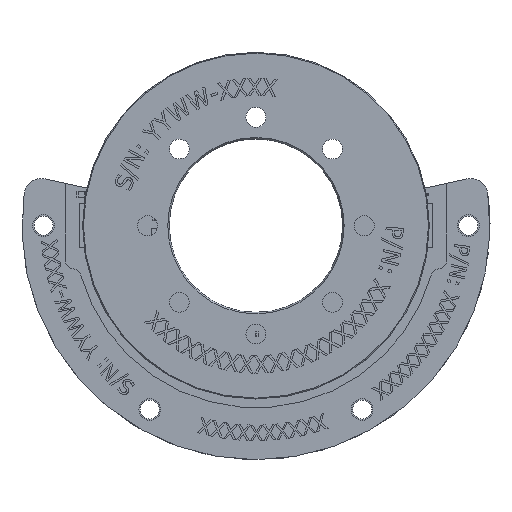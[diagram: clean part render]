
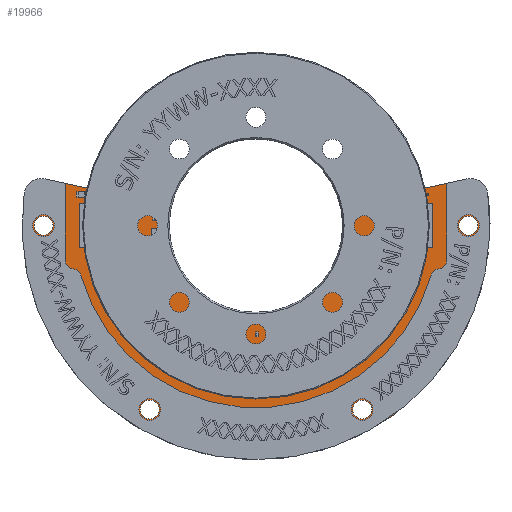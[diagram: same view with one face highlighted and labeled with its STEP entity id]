
A CAD part, front view. The second image highlights one B-rep face of the part: STEP entity #19966.
In plain terms, the highlighted planar face has unit normal (0, -1, 0) as drawn and (0, 0, -1) by its records, which use the part's own axes.
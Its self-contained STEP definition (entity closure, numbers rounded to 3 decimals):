
#1370=FACE_BOUND('',#3576,.T.);
#1371=FACE_BOUND('',#3577,.T.);
#1372=FACE_BOUND('',#3578,.T.);
#1373=FACE_BOUND('',#3579,.T.);
#1494=PLANE('',#21873);
#2471=FACE_OUTER_BOUND('',#3575,.T.);
#3575=EDGE_LOOP('',(#16216,#16217,#16218,#16219,#16220,#16221,#16222,#16223,
#16224,#16225));
#3576=EDGE_LOOP('',(#16226));
#3577=EDGE_LOOP('',(#16227));
#3578=EDGE_LOOP('',(#16228));
#3579=EDGE_LOOP('',(#16229));
#5302=LINE('',#30896,#7437);
#5303=LINE('',#30904,#7438);
#7437=VECTOR('',#24630,10.);
#7438=VECTOR('',#24637,10.);
#8765=CIRCLE('',#21872,0.8);
#8766=CIRCLE('',#21874,27.);
#8767=CIRCLE('',#21875,2.);
#8768=CIRCLE('',#21876,2.);
#8769=CIRCLE('',#21877,10.55);
#8770=CIRCLE('',#21878,2.);
#8771=CIRCLE('',#21879,2.);
#8772=CIRCLE('',#21880,27.);
#8773=CIRCLE('',#21881,1.1);
#8774=CIRCLE('',#21882,1.1);
#8775=CIRCLE('',#21883,1.1);
#8776=CIRCLE('',#21884,1.1);
#10153=VERTEX_POINT('',#30883);
#10155=VERTEX_POINT('',#30887);
#10156=VERTEX_POINT('',#30891);
#10157=VERTEX_POINT('',#30893);
#10158=VERTEX_POINT('',#30895);
#10159=VERTEX_POINT('',#30897);
#10160=VERTEX_POINT('',#30899);
#10161=VERTEX_POINT('',#30901);
#10162=VERTEX_POINT('',#30903);
#10163=VERTEX_POINT('',#30905);
#10164=VERTEX_POINT('',#30908);
#10165=VERTEX_POINT('',#30910);
#10166=VERTEX_POINT('',#30912);
#10167=VERTEX_POINT('',#30914);
#12493=EDGE_CURVE('',#10153,#10155,#8765,.T.);
#12494=EDGE_CURVE('',#10156,#10155,#8766,.T.);
#12495=EDGE_CURVE('',#10157,#10156,#8767,.T.);
#12496=EDGE_CURVE('',#10158,#10157,#5302,.T.);
#12497=EDGE_CURVE('',#10159,#10158,#8768,.T.);
#12498=EDGE_CURVE('',#10160,#10159,#8769,.T.);
#12499=EDGE_CURVE('',#10161,#10160,#8770,.T.);
#12500=EDGE_CURVE('',#10162,#10161,#5303,.T.);
#12501=EDGE_CURVE('',#10163,#10162,#8771,.T.);
#12502=EDGE_CURVE('',#10153,#10163,#8772,.T.);
#12503=EDGE_CURVE('',#10164,#10164,#8773,.T.);
#12504=EDGE_CURVE('',#10165,#10165,#8774,.T.);
#12505=EDGE_CURVE('',#10166,#10166,#8775,.T.);
#12506=EDGE_CURVE('',#10167,#10167,#8776,.T.);
#16216=ORIENTED_EDGE('',*,*,#12493,.T.);
#16217=ORIENTED_EDGE('',*,*,#12494,.F.);
#16218=ORIENTED_EDGE('',*,*,#12495,.F.);
#16219=ORIENTED_EDGE('',*,*,#12496,.F.);
#16220=ORIENTED_EDGE('',*,*,#12497,.F.);
#16221=ORIENTED_EDGE('',*,*,#12498,.F.);
#16222=ORIENTED_EDGE('',*,*,#12499,.F.);
#16223=ORIENTED_EDGE('',*,*,#12500,.F.);
#16224=ORIENTED_EDGE('',*,*,#12501,.F.);
#16225=ORIENTED_EDGE('',*,*,#12502,.F.);
#16226=ORIENTED_EDGE('',*,*,#12503,.T.);
#16227=ORIENTED_EDGE('',*,*,#12504,.T.);
#16228=ORIENTED_EDGE('',*,*,#12505,.T.);
#16229=ORIENTED_EDGE('',*,*,#12506,.T.);
#19966=ADVANCED_FACE('',(#2471,#1370,#1371,#1372,#1373),#1494,.F.);
#21872=AXIS2_PLACEMENT_3D('',#30889,#24622,#24623);
#21873=AXIS2_PLACEMENT_3D('',#30890,#24624,#24625);
#21874=AXIS2_PLACEMENT_3D('',#30892,#24626,#24627);
#21875=AXIS2_PLACEMENT_3D('',#30894,#24628,#24629);
#21876=AXIS2_PLACEMENT_3D('',#30898,#24631,#24632);
#21877=AXIS2_PLACEMENT_3D('',#30900,#24633,#24634);
#21878=AXIS2_PLACEMENT_3D('',#30902,#24635,#24636);
#21879=AXIS2_PLACEMENT_3D('',#30906,#24638,#24639);
#21880=AXIS2_PLACEMENT_3D('',#30907,#24640,#24641);
#21881=AXIS2_PLACEMENT_3D('',#30909,#24642,#24643);
#21882=AXIS2_PLACEMENT_3D('',#30911,#24644,#24645);
#21883=AXIS2_PLACEMENT_3D('',#30913,#24646,#24647);
#21884=AXIS2_PLACEMENT_3D('',#30915,#24648,#24649);
#24622=DIRECTION('center_axis',(0.,0.,1.));
#24623=DIRECTION('ref_axis',(-1.,0.,0.));
#24624=DIRECTION('center_axis',(0.,0.,1.));
#24625=DIRECTION('ref_axis',(1.,0.,0.));
#24626=DIRECTION('center_axis',(0.,0.,1.));
#24627=DIRECTION('ref_axis',(0.99,-0.138,0.));
#24628=DIRECTION('center_axis',(0.,0.,1.));
#24629=DIRECTION('ref_axis',(-0.216,-0.976,0.));
#24630=DIRECTION('',(0.976,-0.216,0.));
#24631=DIRECTION('center_axis',(0.,0.,1.));
#24632=DIRECTION('ref_axis',(-0.998,0.058,0.));
#24633=DIRECTION('center_axis',(0.,0.,-1.));
#24634=DIRECTION('ref_axis',(-0.998,0.058,0.));
#24635=DIRECTION('center_axis',(0.,0.,1.));
#24636=DIRECTION('ref_axis',(0.216,-0.976,0.));
#24637=DIRECTION('',(0.976,0.216,0.));
#24638=DIRECTION('center_axis',(0.,0.,1.));
#24639=DIRECTION('ref_axis',(-0.99,-0.138,0.));
#24640=DIRECTION('center_axis',(0.,0.,1.));
#24641=DIRECTION('ref_axis',(0.99,-0.138,0.));
#24642=DIRECTION('center_axis',(0.,0.,1.));
#24643=DIRECTION('ref_axis',(1.,0.,0.));
#24644=DIRECTION('center_axis',(0.,0.,1.));
#24645=DIRECTION('ref_axis',(1.,0.,0.));
#24646=DIRECTION('center_axis',(0.,0.,1.));
#24647=DIRECTION('ref_axis',(1.,0.,0.));
#24648=DIRECTION('center_axis',(0.,0.,1.));
#24649=DIRECTION('ref_axis',(1.,0.,0.));
#30883=CARTESIAN_POINT('',(223.378,151.449,0.));
#30887=CARTESIAN_POINT('',(223.517,149.856,0.));
#30889=CARTESIAN_POINT('Origin',(223.459,150.653,0.));
#30890=CARTESIAN_POINT('Origin',(196.562,156.94,0.));
#30891=CARTESIAN_POINT('',(223.305,144.584,0.));
#30892=CARTESIAN_POINT('Origin',(196.562,148.3,0.));
#30893=CARTESIAN_POINT('',(220.891,142.907,0.));
#30894=CARTESIAN_POINT('Origin',(221.324,144.859,0.));
#30895=CARTESIAN_POINT('',(208.658,145.619,0.));
#30896=CARTESIAN_POINT('',(208.658,145.619,0.));
#30897=CARTESIAN_POINT('',(207.094,147.687,0.));
#30898=CARTESIAN_POINT('Origin',(209.091,147.571,0.));
#30899=CARTESIAN_POINT('',(186.03,147.687,0.));
#30900=CARTESIAN_POINT('Origin',(196.562,148.3,0.));
#30901=CARTESIAN_POINT('',(184.466,145.619,0.));
#30902=CARTESIAN_POINT('Origin',(184.033,147.571,0.));
#30903=CARTESIAN_POINT('',(172.233,142.907,0.));
#30904=CARTESIAN_POINT('',(172.233,142.907,0.));
#30905=CARTESIAN_POINT('',(169.819,144.584,0.));
#30906=CARTESIAN_POINT('Origin',(171.8,144.859,0.));
#30907=CARTESIAN_POINT('Origin',(196.562,148.3,0.));
#30908=CARTESIAN_POINT('',(219.962,148.3,0.));
#30909=CARTESIAN_POINT('Origin',(221.062,148.3,0.));
#30910=CARTESIAN_POINT('',(207.712,169.518,0.));
#30911=CARTESIAN_POINT('Origin',(208.812,169.518,0.));
#30912=CARTESIAN_POINT('',(183.212,169.518,0.));
#30913=CARTESIAN_POINT('Origin',(184.312,169.518,0.));
#30914=CARTESIAN_POINT('',(170.962,148.3,0.));
#30915=CARTESIAN_POINT('Origin',(172.062,148.3,0.));
